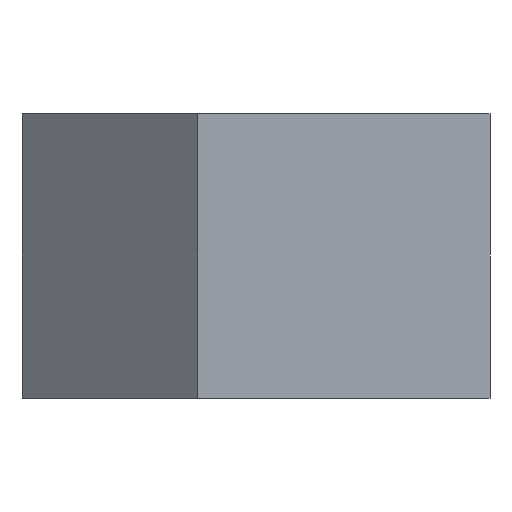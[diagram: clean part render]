
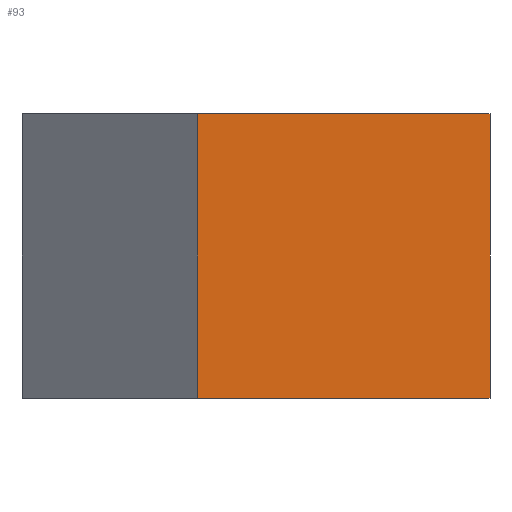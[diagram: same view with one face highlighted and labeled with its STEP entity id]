
A CAD part, left-side view. The second image highlights one B-rep face of the part: STEP entity #93.
In plain terms, the highlighted planar face has unit normal (-1, 0, 0).
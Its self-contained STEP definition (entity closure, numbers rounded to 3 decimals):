
#93=ADVANCED_FACE('',(#153),#154,.T.);
#153=FACE_OUTER_BOUND('',#225,.T.);
#154=PLANE('',#226);
#225=EDGE_LOOP('',(#420,#421,#422,#423));
#226=AXIS2_PLACEMENT_3D('',#424,#425,#426);
#420=ORIENTED_EDGE('',*,*,#585,.T.);
#421=ORIENTED_EDGE('',*,*,#566,.F.);
#422=ORIENTED_EDGE('',*,*,#586,.F.);
#423=ORIENTED_EDGE('',*,*,#583,.T.);
#424=CARTESIAN_POINT('',(-280.0,75.0,0.0));
#425=DIRECTION('',(-1.0,-0.0,0.0));
#426=DIRECTION('',(0.0,-1.0,-0.0));
#566=EDGE_CURVE('',#676,#671,#678,.T.);
#583=EDGE_CURVE('',#706,#704,#707,.T.);
#585=EDGE_CURVE('',#704,#671,#709,.T.);
#586=EDGE_CURVE('',#706,#676,#710,.T.);
#671=VERTEX_POINT('',#835);
#676=VERTEX_POINT('',#842);
#678=LINE('',#845,#846);
#704=VERTEX_POINT('',#887);
#706=VERTEX_POINT('',#890);
#707=LINE('',#891,#892);
#709=LINE('',#895,#896);
#710=LINE('',#897,#898);
#835=CARTESIAN_POINT('',(-280.0,150.0,146.0));
#842=CARTESIAN_POINT('',(-280.0,150.0,0.0));
#845=CARTESIAN_POINT('',(-280.0,150.0,0.0));
#846=VECTOR('',#1018,1.0);
#887=CARTESIAN_POINT('',(-280.0,0.0,146.0));
#890=CARTESIAN_POINT('',(-280.0,0.0,0.0));
#891=CARTESIAN_POINT('',(-280.0,0.0,0.0));
#892=VECTOR('',#1035,1.0);
#895=CARTESIAN_POINT('',(-280.0,0.0,146.0));
#896=VECTOR('',#1037,1.0);
#897=CARTESIAN_POINT('',(-280.0,0.0,0.0));
#898=VECTOR('',#1038,1.0);
#1018=DIRECTION('',(0.0,0.0,1.0));
#1035=DIRECTION('',(0.0,0.0,1.0));
#1037=DIRECTION('',(0.0,1.0,0.0));
#1038=DIRECTION('',(0.0,1.0,0.0));
